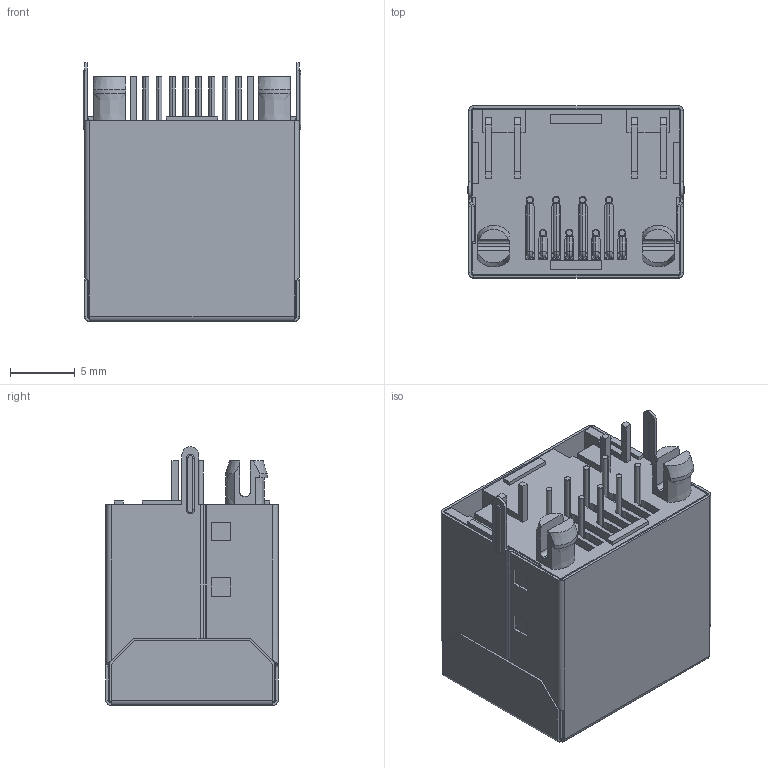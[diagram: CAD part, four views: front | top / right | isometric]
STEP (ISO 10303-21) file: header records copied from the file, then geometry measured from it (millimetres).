
FILE_DESCRIPTION((''),'2;1');
FILE_NAME('DGKYD52T1188AB1A1DY1008','2022-05-11T17:24:14',('Administrator'),(''),'CREO PARAMETRIC BY PTC INC, 2018400','CREO PARAMETRIC BY PTC INC, 2018400','');
FILE_SCHEMA(('CONFIG_CONTROL_DESIGN'));
Length unit declared in the file: millimetre
Products named in the file (1): DGKYD52T1188AB1A1DY1008
Bounding box: 16.8 x 13.3 x 20 mm (x, y, z)
Volume: 1995.4 mm3; surface area: 4726 mm2
Topology: 5 solids, 6 shells, 697 faces, 1780 edges, 1116 vertices
Faces by surface type: plane 485, cylinder 129, extrusion 33, bspline 26, torus 20, cone 4
Entity records: 24236 total; most frequent: CARTESIAN_POINT 7484, ORIENTED_EDGE 3552, DIRECTION 3255, EDGE_CURVE 1780, VECTOR 1325, LINE 1292, VERTEX_POINT 1116, AXIS2_PLACEMENT_3D 965
